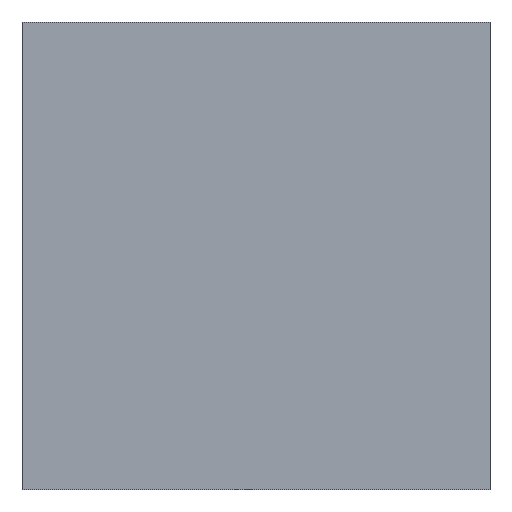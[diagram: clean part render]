
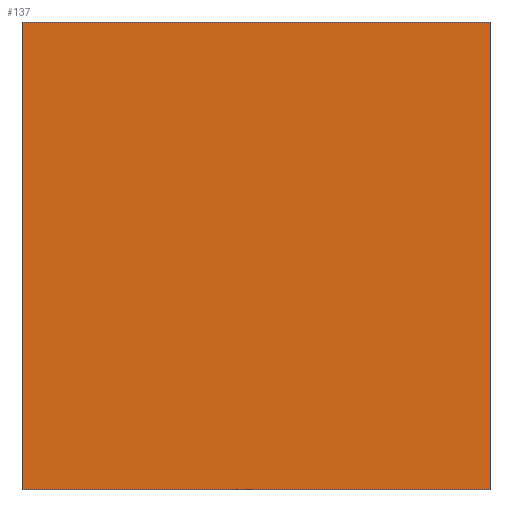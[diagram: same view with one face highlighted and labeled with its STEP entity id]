
A CAD part, front view. The second image highlights one B-rep face of the part: STEP entity #137.
In plain terms, the highlighted planar face has unit normal (0, -1, 0).
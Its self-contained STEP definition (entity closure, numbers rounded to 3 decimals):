
#21 = EDGE_CURVE('',#22,#24,#26,.T.);
#22 = VERTEX_POINT('',#23);
#23 = CARTESIAN_POINT('',(30.2,-39.,9.8));
#24 = VERTEX_POINT('',#25);
#25 = CARTESIAN_POINT('',(30.2,-39.,11.6));
#26 = SURFACE_CURVE('',#27,(#31,#43),.PCURVE_S1.);
#27 = LINE('',#28,#29);
#28 = CARTESIAN_POINT('',(30.2,-39.,9.8));
#29 = VECTOR('',#30,1.);
#30 = DIRECTION('',(0.,0.,1.));
#31 = PCURVE('',#32,#37);
#32 = PLANE('',#33);
#33 = AXIS2_PLACEMENT_3D('',#34,#35,#36);
#34 = CARTESIAN_POINT('',(30.2,-39.,9.8));
#35 = DIRECTION('',(1.,0.,0.));
#36 = DIRECTION('',(0.,0.,1.));
#37 = DEFINITIONAL_REPRESENTATION('',(#38),#42);
#38 = LINE('',#39,#40);
#39 = CARTESIAN_POINT('',(0.,0.));
#40 = VECTOR('',#41,1.);
#41 = DIRECTION('',(1.,0.));
#42 = ( GEOMETRIC_REPRESENTATION_CONTEXT(2) 
PARAMETRIC_REPRESENTATION_CONTEXT() REPRESENTATION_CONTEXT('2D SPACE',''
  ) );
#43 = PCURVE('',#44,#49);
#44 = PLANE('',#45);
#45 = AXIS2_PLACEMENT_3D('',#46,#47,#48);
#46 = CARTESIAN_POINT('',(30.2,-39.,9.8));
#47 = DIRECTION('',(0.,1.,0.));
#48 = DIRECTION('',(0.,-0.,1.));
#49 = DEFINITIONAL_REPRESENTATION('',(#50),#54);
#50 = LINE('',#51,#52);
#51 = CARTESIAN_POINT('',(0.,0.));
#52 = VECTOR('',#53,1.);
#53 = DIRECTION('',(1.,0.));
#54 = ( GEOMETRIC_REPRESENTATION_CONTEXT(2) 
PARAMETRIC_REPRESENTATION_CONTEXT() REPRESENTATION_CONTEXT('2D SPACE',''
  ) );
#72 = PLANE('',#73);
#73 = AXIS2_PLACEMENT_3D('',#74,#75,#76);
#74 = CARTESIAN_POINT('',(30.2,-39.,9.8));
#75 = DIRECTION('',(0.,0.,1.));
#76 = DIRECTION('',(1.,0.,-0.));
#126 = PLANE('',#127);
#127 = AXIS2_PLACEMENT_3D('',#128,#129,#130);
#128 = CARTESIAN_POINT('',(30.2,-39.,11.6));
#129 = DIRECTION('',(0.,0.,1.));
#130 = DIRECTION('',(1.,0.,-0.));
#137 = ADVANCED_FACE('',(#138),#44,.F.);
#138 = FACE_BOUND('',#139,.F.);
#139 = EDGE_LOOP('',(#140,#163,#164,#187));
#140 = ORIENTED_EDGE('',*,*,#141,.F.);
#141 = EDGE_CURVE('',#22,#142,#144,.T.);
#142 = VERTEX_POINT('',#143);
#143 = CARTESIAN_POINT('',(32.,-39.,9.8));
#144 = SURFACE_CURVE('',#145,(#149,#156),.PCURVE_S1.);
#145 = LINE('',#146,#147);
#146 = CARTESIAN_POINT('',(30.2,-39.,9.8));
#147 = VECTOR('',#148,1.);
#148 = DIRECTION('',(1.,0.,0.));
#149 = PCURVE('',#44,#150);
#150 = DEFINITIONAL_REPRESENTATION('',(#151),#155);
#151 = LINE('',#152,#153);
#152 = CARTESIAN_POINT('',(0.,0.));
#153 = VECTOR('',#154,1.);
#154 = DIRECTION('',(0.,1.));
#155 = ( GEOMETRIC_REPRESENTATION_CONTEXT(2) 
PARAMETRIC_REPRESENTATION_CONTEXT() REPRESENTATION_CONTEXT('2D SPACE',''
  ) );
#156 = PCURVE('',#72,#157);
#157 = DEFINITIONAL_REPRESENTATION('',(#158),#162);
#158 = LINE('',#159,#160);
#159 = CARTESIAN_POINT('',(0.,0.));
#160 = VECTOR('',#161,1.);
#161 = DIRECTION('',(1.,0.));
#162 = ( GEOMETRIC_REPRESENTATION_CONTEXT(2) 
PARAMETRIC_REPRESENTATION_CONTEXT() REPRESENTATION_CONTEXT('2D SPACE',''
  ) );
#163 = ORIENTED_EDGE('',*,*,#21,.T.);
#164 = ORIENTED_EDGE('',*,*,#165,.T.);
#165 = EDGE_CURVE('',#24,#166,#168,.T.);
#166 = VERTEX_POINT('',#167);
#167 = CARTESIAN_POINT('',(32.,-39.,11.6));
#168 = SURFACE_CURVE('',#169,(#173,#180),.PCURVE_S1.);
#169 = LINE('',#170,#171);
#170 = CARTESIAN_POINT('',(30.2,-39.,11.6));
#171 = VECTOR('',#172,1.);
#172 = DIRECTION('',(1.,0.,0.));
#173 = PCURVE('',#44,#174);
#174 = DEFINITIONAL_REPRESENTATION('',(#175),#179);
#175 = LINE('',#176,#177);
#176 = CARTESIAN_POINT('',(1.8,0.));
#177 = VECTOR('',#178,1.);
#178 = DIRECTION('',(0.,1.));
#179 = ( GEOMETRIC_REPRESENTATION_CONTEXT(2) 
PARAMETRIC_REPRESENTATION_CONTEXT() REPRESENTATION_CONTEXT('2D SPACE',''
  ) );
#180 = PCURVE('',#126,#181);
#181 = DEFINITIONAL_REPRESENTATION('',(#182),#186);
#182 = LINE('',#183,#184);
#183 = CARTESIAN_POINT('',(0.,0.));
#184 = VECTOR('',#185,1.);
#185 = DIRECTION('',(1.,0.));
#186 = ( GEOMETRIC_REPRESENTATION_CONTEXT(2) 
PARAMETRIC_REPRESENTATION_CONTEXT() REPRESENTATION_CONTEXT('2D SPACE',''
  ) );
#187 = ORIENTED_EDGE('',*,*,#188,.F.);
#188 = EDGE_CURVE('',#142,#166,#189,.T.);
#189 = SURFACE_CURVE('',#190,(#194,#201),.PCURVE_S1.);
#190 = LINE('',#191,#192);
#191 = CARTESIAN_POINT('',(32.,-39.,9.8));
#192 = VECTOR('',#193,1.);
#193 = DIRECTION('',(0.,0.,1.));
#194 = PCURVE('',#44,#195);
#195 = DEFINITIONAL_REPRESENTATION('',(#196),#200);
#196 = LINE('',#197,#198);
#197 = CARTESIAN_POINT('',(0.,1.8));
#198 = VECTOR('',#199,1.);
#199 = DIRECTION('',(1.,0.));
#200 = ( GEOMETRIC_REPRESENTATION_CONTEXT(2) 
PARAMETRIC_REPRESENTATION_CONTEXT() REPRESENTATION_CONTEXT('2D SPACE',''
  ) );
#201 = PCURVE('',#202,#207);
#202 = PLANE('',#203);
#203 = AXIS2_PLACEMENT_3D('',#204,#205,#206);
#204 = CARTESIAN_POINT('',(32.,-39.,9.8));
#205 = DIRECTION('',(1.,0.,0.));
#206 = DIRECTION('',(0.,0.,1.));
#207 = DEFINITIONAL_REPRESENTATION('',(#208),#212);
#208 = LINE('',#209,#210);
#209 = CARTESIAN_POINT('',(0.,0.));
#210 = VECTOR('',#211,1.);
#211 = DIRECTION('',(1.,0.));
#212 = ( GEOMETRIC_REPRESENTATION_CONTEXT(2) 
PARAMETRIC_REPRESENTATION_CONTEXT() REPRESENTATION_CONTEXT('2D SPACE',''
  ) );
